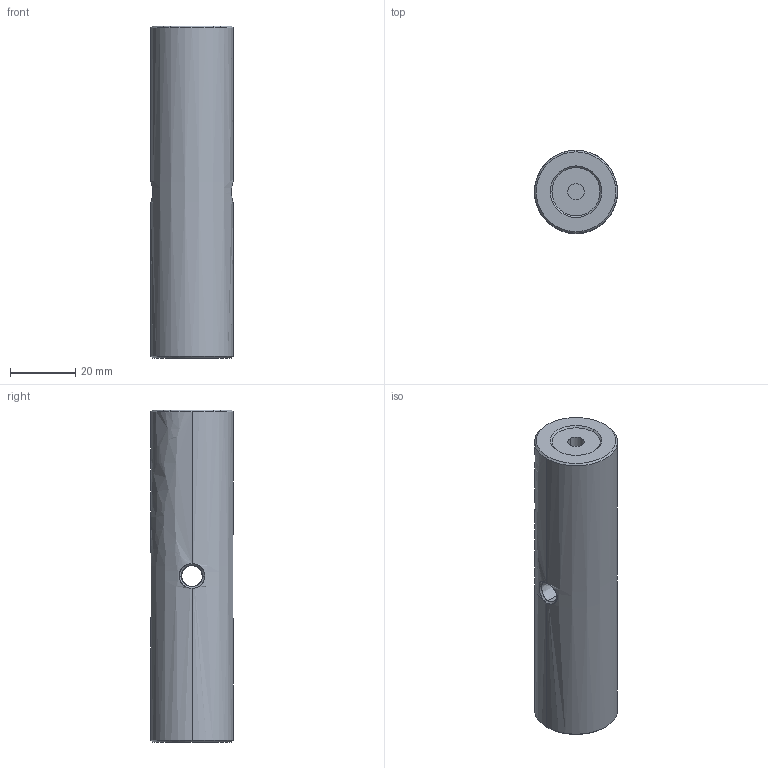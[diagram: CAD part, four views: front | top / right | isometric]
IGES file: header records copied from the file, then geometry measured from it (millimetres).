
Start section: 3D InterOp IGES (Version 21 0 3), Spatial Corp. Copyright (c) 1999-2007.
Global section: file name: export0.igs; native system: Spatial Corp.; preprocessor: 3D InterOp ACIS/IGES; author: Noname; organization: Noname; date: 20140203.221806; units: centimetre
Bounding box: 25.4 x 25.4 x 101.6 mm (x, y, z)
Surface area: 10315.6 mm2 (no closed solid volume)
Topology: 0 solids, 0 shells, 26 faces, 124 edges, 124 vertices
Faces by surface type: revolution 16, extrusion 6, bspline 4
